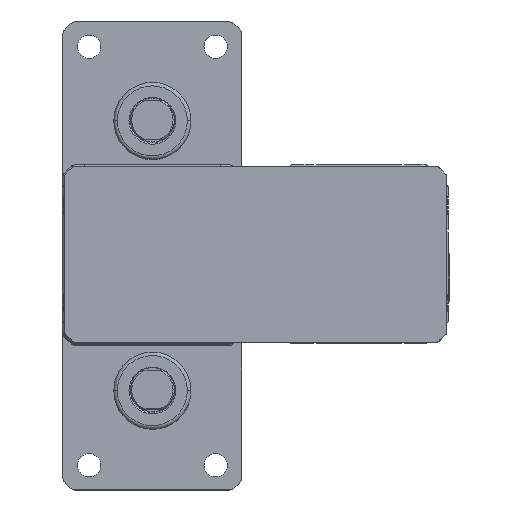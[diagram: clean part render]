
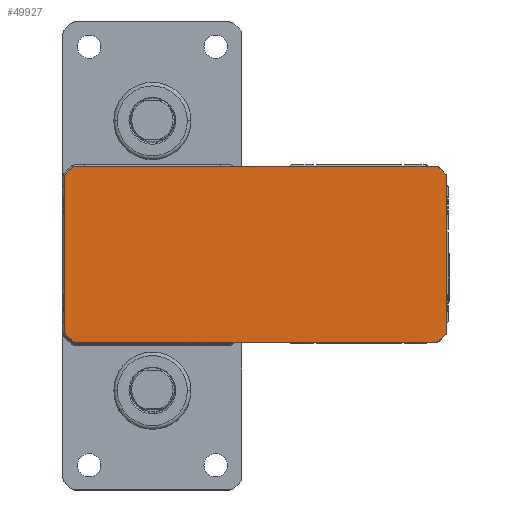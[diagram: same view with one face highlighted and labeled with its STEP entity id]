
A CAD part, top view. The second image highlights one B-rep face of the part: STEP entity #49927.
In plain terms, the highlighted planar face has unit normal (0, 0, 1).
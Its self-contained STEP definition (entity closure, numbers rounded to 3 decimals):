
#1470 = LINE ( 'NONE', #52414, #32412 ) ;
#1480 = EDGE_CURVE ( 'NONE', #11515, #1975, #12512, .T. ) ;
#1515 = VERTEX_POINT ( 'NONE', #38805 ) ;
#1815 = AXIS2_PLACEMENT_3D ( 'NONE', #18901, #47214, #22968 ) ;
#1975 = VERTEX_POINT ( 'NONE', #42862 ) ;
#3153 = CARTESIAN_POINT ( 'NONE',  ( -28., -30.5, 344. ) ) ;
#3160 = CIRCLE ( 'NONE', #8039, 1.5 ) ;
#3525 = DIRECTION ( 'NONE',  ( -0.707, 0.707, 0. ) ) ;
#5046 = AXIS2_PLACEMENT_3D ( 'NONE', #43927, #19680, #47999 ) ;
#5583 = EDGE_CURVE ( 'NONE', #32507, #14432, #22696, .T. ) ;
#5702 = CARTESIAN_POINT ( 'NONE',  ( -32., 28., 344. ) ) ;
#5794 = VERTEX_POINT ( 'NONE', #17922 ) ;
#5898 = EDGE_CURVE ( 'NONE', #24889, #11515, #46719, .T. ) ;
#7222 = DIRECTION ( 'NONE',  ( 1., 0., 0. ) ) ;
#7643 = ORIENTED_EDGE ( 'NONE', *, *, #24779, .T. ) ;
#8039 = AXIS2_PLACEMENT_3D ( 'NONE', #20227, #48545, #24289 ) ;
#9405 = EDGE_CURVE ( 'NONE', #12062, #10854, #18545, .T. ) ;
#9791 = AXIS2_PLACEMENT_3D ( 'NONE', #12782, #41081, #16816 ) ;
#10441 = VERTEX_POINT ( 'NONE', #35080 ) ;
#10663 = AXIS2_PLACEMENT_3D ( 'NONE', #22304, #50632, #26375 ) ;
#10733 = VECTOR ( 'NONE', #26900, 1000. ) ;
#10854 = VERTEX_POINT ( 'NONE', #21734 ) ;
#11219 = VERTEX_POINT ( 'NONE', #27069 ) ;
#11459 = CARTESIAN_POINT ( 'NONE',  ( 106.561, 29.061, 344. ) ) ;
#11515 = VERTEX_POINT ( 'NONE', #16764 ) ;
#12059 = ORIENTED_EDGE ( 'NONE', *, *, #18085, .T. ) ;
#12062 = VERTEX_POINT ( 'NONE', #16700 ) ;
#12346 = ORIENTED_EDGE ( 'NONE', *, *, #52067, .T. ) ;
#12512 = CIRCLE ( 'NONE', #10663, 1.5 ) ;
#12700 = CARTESIAN_POINT ( 'NONE',  ( 105.5, -28., 344. ) ) ;
#12782 = CARTESIAN_POINT ( 'NONE',  ( 103., 30.5, 344. ) ) ;
#13445 = FACE_OUTER_BOUND ( 'NONE', #16751, .T. ) ;
#13512 = CARTESIAN_POINT ( 'NONE',  ( -28., -32., 344. ) ) ;
#14282 = LINE ( 'NONE', #25110, #35781 ) ;
#14432 = VERTEX_POINT ( 'NONE', #35790 ) ;
#14434 = VECTOR ( 'NONE', #46946, 1000. ) ;
#14582 = CARTESIAN_POINT ( 'NONE',  ( 103., 32., 344. ) ) ;
#15421 = VECTOR ( 'NONE', #37754, 1000. ) ;
#16296 = CARTESIAN_POINT ( 'NONE',  ( -30.5, -28., 344. ) ) ;
#16413 = VERTEX_POINT ( 'NONE', #27126 ) ;
#16588 = VECTOR ( 'NONE', #44542, 1000. ) ;
#16700 = CARTESIAN_POINT ( 'NONE',  ( -32., -28., 344. ) ) ;
#16737 = DIRECTION ( 'NONE',  ( 1., 0., 0. ) ) ;
#16751 = EDGE_LOOP ( 'NONE', ( #28873, #24734, #12346, #48343, #31221, #12059, #20746, #37060, #36748, #44240, #7643, #40672, #23237, #29923, #39335, #48349 ) ) ;
#16764 = CARTESIAN_POINT ( 'NONE',  ( -28., 32., 344. ) ) ;
#16816 = DIRECTION ( 'NONE',  ( 1., 0., 0. ) ) ;
#17572 = LINE ( 'NONE', #11459, #28349 ) ;
#17922 = CARTESIAN_POINT ( 'NONE',  ( 103., -32., 344. ) ) ;
#18085 = EDGE_CURVE ( 'NONE', #10441, #42237, #25635, .T. ) ;
#18545 = CIRCLE ( 'NONE', #37235, 1.5 ) ;
#18901 = CARTESIAN_POINT ( 'NONE',  ( 103., -30.5, 344. ) ) ;
#19680 = DIRECTION ( 'NONE',  ( 0., 0., 1. ) ) ;
#20227 = CARTESIAN_POINT ( 'NONE',  ( -30.5, 28., 344. ) ) ;
#20279 = CARTESIAN_POINT ( 'NONE',  ( -32., 28., 344. ) ) ;
#20357 = DIRECTION ( 'NONE',  ( 0., 0., 1. ) ) ;
#20746 = ORIENTED_EDGE ( 'NONE', *, *, #48917, .T. ) ;
#20936 = DIRECTION ( 'NONE',  ( 0., 0., 1. ) ) ;
#21479 = CARTESIAN_POINT ( 'NONE',  ( 104.061, 31.561, 344. ) ) ;
#21734 = CARTESIAN_POINT ( 'NONE',  ( -31.561, -29.061, 344. ) ) ;
#22304 = CARTESIAN_POINT ( 'NONE',  ( -28., 30.5, 344. ) ) ;
#22428 = EDGE_CURVE ( 'NONE', #47430, #36409, #3160, .T. ) ;
#22691 = CIRCLE ( 'NONE', #43556, 1.5 ) ;
#22696 = LINE ( 'NONE', #22821, #10733 ) ;
#22821 = CARTESIAN_POINT ( 'NONE',  ( 107., -28., 344. ) ) ;
#22968 = DIRECTION ( 'NONE',  ( 1., 0., 0. ) ) ;
#23237 = ORIENTED_EDGE ( 'NONE', *, *, #1480, .T. ) ;
#24289 = DIRECTION ( 'NONE',  ( 1., 0., 0. ) ) ;
#24734 = ORIENTED_EDGE ( 'NONE', *, *, #42922, .T. ) ;
#24779 = EDGE_CURVE ( 'NONE', #27374, #24889, #30693, .T. ) ;
#24889 = VERTEX_POINT ( 'NONE', #41775 ) ;
#25110 = CARTESIAN_POINT ( 'NONE',  ( -29.061, 31.561, 344. ) ) ;
#25635 = LINE ( 'NONE', #51386, #35163 ) ;
#26375 = DIRECTION ( 'NONE',  ( 1., 0., 0. ) ) ;
#26900 = DIRECTION ( 'NONE',  ( 0., 1., 0. ) ) ;
#27069 = CARTESIAN_POINT ( 'NONE',  ( 106.561, 29.061, 344. ) ) ;
#27126 = CARTESIAN_POINT ( 'NONE',  ( -28., -32., 344. ) ) ;
#27356 = LINE ( 'NONE', #20279, #16588 ) ;
#27374 = VERTEX_POINT ( 'NONE', #21479 ) ;
#27433 = LINE ( 'NONE', #13512, #15421 ) ;
#28349 = VECTOR ( 'NONE', #3525, 1000. ) ;
#28355 = DIRECTION ( 'NONE',  ( 0.707, -0.707, 0. ) ) ;
#28631 = EDGE_CURVE ( 'NONE', #5794, #10441, #36020, .T. ) ;
#28769 = AXIS2_PLACEMENT_3D ( 'NONE', #12700, #41009, #16737 ) ;
#28848 = EDGE_CURVE ( 'NONE', #36409, #12062, #27356, .T. ) ;
#28873 = ORIENTED_EDGE ( 'NONE', *, *, #9405, .T. ) ;
#29923 = ORIENTED_EDGE ( 'NONE', *, *, #41421, .T. ) ;
#30693 = CIRCLE ( 'NONE', #9791, 1.5 ) ;
#31206 = DIRECTION ( 'NONE',  ( 0.707, 0.707, 0. ) ) ;
#31221 = ORIENTED_EDGE ( 'NONE', *, *, #28631, .T. ) ;
#31396 = DIRECTION ( 'NONE',  ( 0., 0., 1. ) ) ;
#31634 = CARTESIAN_POINT ( 'NONE',  ( 107., -28., 344. ) ) ;
#31949 = EDGE_CURVE ( 'NONE', #11219, #27374, #17572, .T. ) ;
#32412 = VECTOR ( 'NONE', #28355, 1000. ) ;
#32507 = VERTEX_POINT ( 'NONE', #31634 ) ;
#33625 = EDGE_CURVE ( 'NONE', #14432, #11219, #50960, .T. ) ;
#35080 = CARTESIAN_POINT ( 'NONE',  ( 104.061, -31.561, 344. ) ) ;
#35163 = VECTOR ( 'NONE', #31206, 1000. ) ;
#35774 = EDGE_CURVE ( 'NONE', #16413, #5794, #27433, .T. ) ;
#35781 = VECTOR ( 'NONE', #49367, 1000. ) ;
#35790 = CARTESIAN_POINT ( 'NONE',  ( 107., 28., 344. ) ) ;
#36020 = CIRCLE ( 'NONE', #1815, 1.5 ) ;
#36409 = VERTEX_POINT ( 'NONE', #5702 ) ;
#36748 = ORIENTED_EDGE ( 'NONE', *, *, #33625, .T. ) ;
#37060 = ORIENTED_EDGE ( 'NONE', *, *, #5583, .T. ) ;
#37235 = AXIS2_PLACEMENT_3D ( 'NONE', #45187, #20936, #49256 ) ;
#37754 = DIRECTION ( 'NONE',  ( 1., 0., 0. ) ) ;
#38805 = CARTESIAN_POINT ( 'NONE',  ( -29.061, -31.561, 344. ) ) ;
#39335 = ORIENTED_EDGE ( 'NONE', *, *, #22428, .T. ) ;
#40549 = PLANE ( 'NONE',  #49160 ) ;
#40672 = ORIENTED_EDGE ( 'NONE', *, *, #5898, .T. ) ;
#41009 = DIRECTION ( 'NONE',  ( 0., 0., 1. ) ) ;
#41081 = DIRECTION ( 'NONE',  ( 0., 0., 1. ) ) ;
#41421 = EDGE_CURVE ( 'NONE', #1975, #47430, #14282, .T. ) ;
#41775 = CARTESIAN_POINT ( 'NONE',  ( 103., 32., 344. ) ) ;
#42237 = VERTEX_POINT ( 'NONE', #50920 ) ;
#42862 = CARTESIAN_POINT ( 'NONE',  ( -29.061, 31.561, 344. ) ) ;
#42922 = EDGE_CURVE ( 'NONE', #10854, #1515, #1470, .T. ) ;
#43556 = AXIS2_PLACEMENT_3D ( 'NONE', #3153, #31396, #7222 ) ;
#43927 = CARTESIAN_POINT ( 'NONE',  ( 105.5, 28., 344. ) ) ;
#44103 = CARTESIAN_POINT ( 'NONE',  ( -31.561, 29.061, 344. ) ) ;
#44240 = ORIENTED_EDGE ( 'NONE', *, *, #31949, .T. ) ;
#44542 = DIRECTION ( 'NONE',  ( 0., -1., 0. ) ) ;
#45187 = CARTESIAN_POINT ( 'NONE',  ( -30.5, -28., 344. ) ) ;
#46719 = LINE ( 'NONE', #14582, #14434 ) ;
#46946 = DIRECTION ( 'NONE',  ( -1., 0., 0. ) ) ;
#47214 = DIRECTION ( 'NONE',  ( 0., 0., 1. ) ) ;
#47430 = VERTEX_POINT ( 'NONE', #44103 ) ;
#47999 = DIRECTION ( 'NONE',  ( 1., 0., 0. ) ) ;
#48343 = ORIENTED_EDGE ( 'NONE', *, *, #35774, .T. ) ;
#48349 = ORIENTED_EDGE ( 'NONE', *, *, #28848, .T. ) ;
#48545 = DIRECTION ( 'NONE',  ( 0., 0., 1. ) ) ;
#48662 = DIRECTION ( 'NONE',  ( 1., 0., 0. ) ) ;
#48917 = EDGE_CURVE ( 'NONE', #42237, #32507, #49638, .T. ) ;
#49160 = AXIS2_PLACEMENT_3D ( 'NONE', #16296, #20357, #48662 ) ;
#49256 = DIRECTION ( 'NONE',  ( 1., 0., 0. ) ) ;
#49367 = DIRECTION ( 'NONE',  ( -0.707, -0.707, 0. ) ) ;
#49638 = CIRCLE ( 'NONE', #28769, 1.5 ) ;
#49927 = ADVANCED_FACE ( 'NONE', ( #13445 ), #40549, .T. ) ;
#50632 = DIRECTION ( 'NONE',  ( 0., 0., 1. ) ) ;
#50920 = CARTESIAN_POINT ( 'NONE',  ( 106.561, -29.061, 344. ) ) ;
#50960 = CIRCLE ( 'NONE', #5046, 1.5 ) ;
#51386 = CARTESIAN_POINT ( 'NONE',  ( 104.061, -31.561, 344. ) ) ;
#52067 = EDGE_CURVE ( 'NONE', #1515, #16413, #22691, .T. ) ;
#52414 = CARTESIAN_POINT ( 'NONE',  ( -31.561, -29.061, 344. ) ) ;
